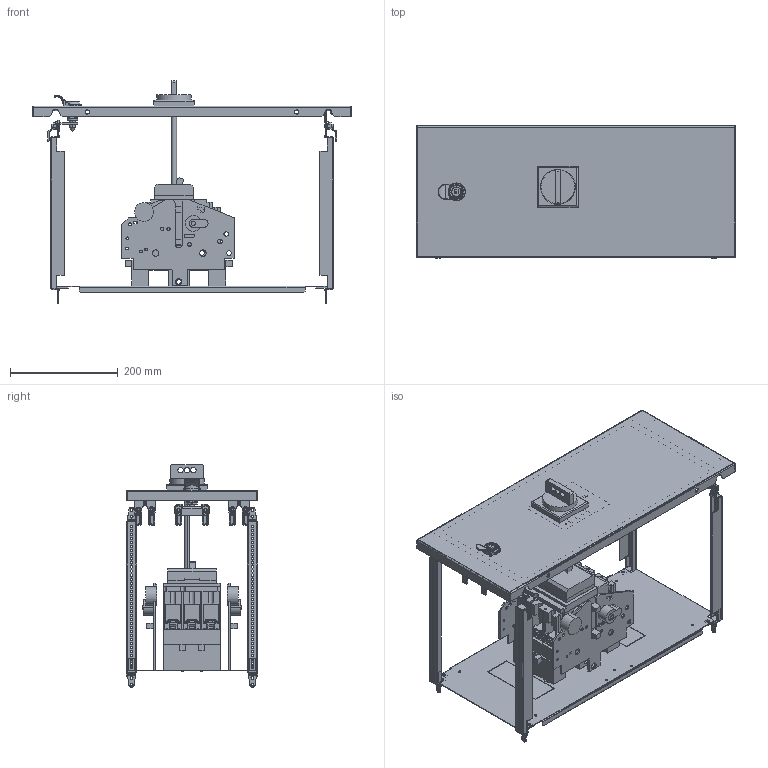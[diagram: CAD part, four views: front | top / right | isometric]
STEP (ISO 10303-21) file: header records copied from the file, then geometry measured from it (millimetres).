
FILE_DESCRIPTION(('CAx-IF Rec.Pracs.---Model Styling and Organization---1.2---2011-12-15','CAx-IF Rec.Pracs.---Geometric and Assembly Validation Properties---4.1---2014-06-16','CAx-IF Rec.Pracs.---PMI Polyline Presentation---2.0---2013-05-24'),'2;1');
FILE_NAME('R5PKEB7H61913 (W).stp','2021-07-29T02:11:23+03:00',(''),(''),'STEP Interface 4.4 by CT CoreTechnologie','3D_Evolution4.4 by CT CoreTechnologie','');
FILE_SCHEMA(('AUTOMOTIVE_DESIGN { 1 0 10303 214 1 1 1 1 }'));
Length unit declared in the file: millimetre
Products named in the file (1): R5PKEB7H61913 (W)
Bounding box: 594 x 245 x 413.9 mm (x, y, z)
Surface area: 1314099.8 mm2 (no closed solid volume)
Topology: 0 solids, 91 shells, 3412 faces, 9437 edges, 6226 vertices
Faces by surface type: plane 1806, cylinder 1196, bspline 410
Entity records: 121418 total; most frequent: CARTESIAN_POINT 32805, ORIENTED_EDGE 18802, DIRECTION 17822, EDGE_CURVE 9404, VECTOR 6316, LINE 6316, VERTEX_POINT 6244, AXIS2_PLACEMENT_3D 5753
